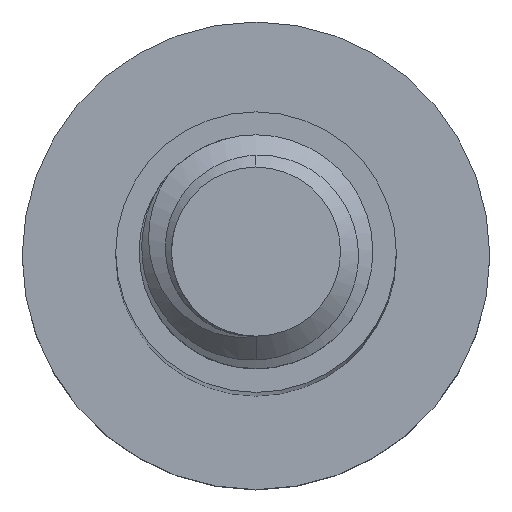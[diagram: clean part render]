
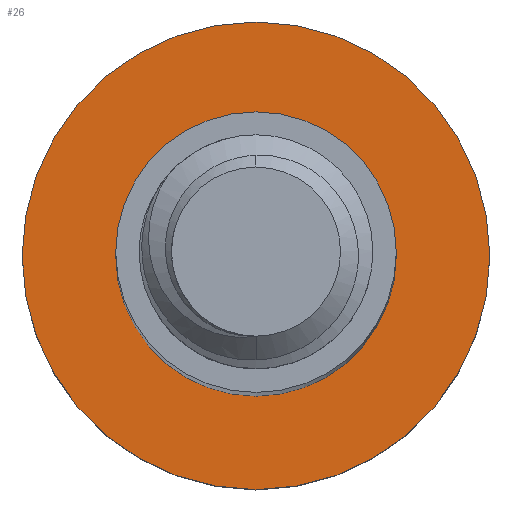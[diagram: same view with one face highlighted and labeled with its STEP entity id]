
A CAD part, top view. The second image highlights one B-rep face of the part: STEP entity #26.
In plain terms, the highlighted planar face has unit normal (0, 0, 1).
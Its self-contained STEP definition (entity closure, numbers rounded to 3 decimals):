
#17 = ORIENTED_EDGE ( 'NONE', *, *, #397, .T. ) ;
#26 = ADVANCED_FACE ( 'NONE', ( #1895, #465 ), #1917, .F. ) ;
#113 = EDGE_CURVE ( 'NONE', #1847, #218, #2046, .T. ) ;
#218 = VERTEX_POINT ( 'NONE', #1566 ) ;
#246 = DIRECTION ( 'NONE',  ( -1., 0., 0. ) ) ;
#255 = DIRECTION ( 'NONE',  ( 0., 0., -1. ) ) ;
#274 = DIRECTION ( 'NONE',  ( -1., 0., 0. ) ) ;
#367 = CIRCLE ( 'NONE', #1040, 5. ) ;
#397 = EDGE_CURVE ( 'NONE', #2195, #1273, #545, .T. ) ;
#398 = AXIS2_PLACEMENT_3D ( 'NONE', #435, #255, #274 ) ;
#432 = DIRECTION ( 'NONE',  ( -1., 0., 0. ) ) ;
#435 = CARTESIAN_POINT ( 'NONE',  ( 0., 0., -45. ) ) ;
#465 = FACE_OUTER_BOUND ( 'NONE', #2207, .T. ) ;
#507 = CARTESIAN_POINT ( 'NONE',  ( -3., 0., -45. ) ) ;
#523 = DIRECTION ( 'NONE',  ( -1., 0., 0. ) ) ;
#545 = CIRCLE ( 'NONE', #851, 3. ) ;
#550 = ORIENTED_EDGE ( 'NONE', *, *, #2174, .F. ) ;
#612 = DIRECTION ( 'NONE',  ( 0., 0., -1. ) ) ;
#788 = DIRECTION ( 'NONE',  ( -1., 0., 0. ) ) ;
#851 = AXIS2_PLACEMENT_3D ( 'NONE', #1302, #948, #246 ) ;
#867 = CARTESIAN_POINT ( 'NONE',  ( 0., 0., -45. ) ) ;
#889 = DIRECTION ( 'NONE',  ( 0., 0., -1. ) ) ;
#948 = DIRECTION ( 'NONE',  ( 0., 0., -1. ) ) ;
#1011 = CARTESIAN_POINT ( 'NONE',  ( 0., 0., -45. ) ) ;
#1040 = AXIS2_PLACEMENT_3D ( 'NONE', #1353, #1341, #432 ) ;
#1261 = EDGE_LOOP ( 'NONE', ( #2229, #17 ) ) ;
#1273 = VERTEX_POINT ( 'NONE', #507 ) ;
#1302 = CARTESIAN_POINT ( 'NONE',  ( 0., 0., -45. ) ) ;
#1341 = DIRECTION ( 'NONE',  ( 0., 0., -1. ) ) ;
#1353 = CARTESIAN_POINT ( 'NONE',  ( 0., 0., -45. ) ) ;
#1457 = AXIS2_PLACEMENT_3D ( 'NONE', #1011, #612, #788 ) ;
#1566 = CARTESIAN_POINT ( 'NONE',  ( 5., 0., -45. ) ) ;
#1718 = CARTESIAN_POINT ( 'NONE',  ( 3., 0., -45. ) ) ;
#1735 = CIRCLE ( 'NONE', #1970, 3. ) ;
#1847 = VERTEX_POINT ( 'NONE', #2173 ) ;
#1895 = FACE_BOUND ( 'NONE', #1261, .T. ) ;
#1909 = EDGE_CURVE ( 'NONE', #1273, #2195, #1735, .T. ) ;
#1917 = PLANE ( 'NONE',  #1457 ) ;
#1970 = AXIS2_PLACEMENT_3D ( 'NONE', #867, #889, #523 ) ;
#1977 = ORIENTED_EDGE ( 'NONE', *, *, #113, .F. ) ;
#2046 = CIRCLE ( 'NONE', #398, 5. ) ;
#2173 = CARTESIAN_POINT ( 'NONE',  ( -5., 0., -45. ) ) ;
#2174 = EDGE_CURVE ( 'NONE', #218, #1847, #367, .T. ) ;
#2195 = VERTEX_POINT ( 'NONE', #1718 ) ;
#2207 = EDGE_LOOP ( 'NONE', ( #550, #1977 ) ) ;
#2229 = ORIENTED_EDGE ( 'NONE', *, *, #1909, .T. ) ;
